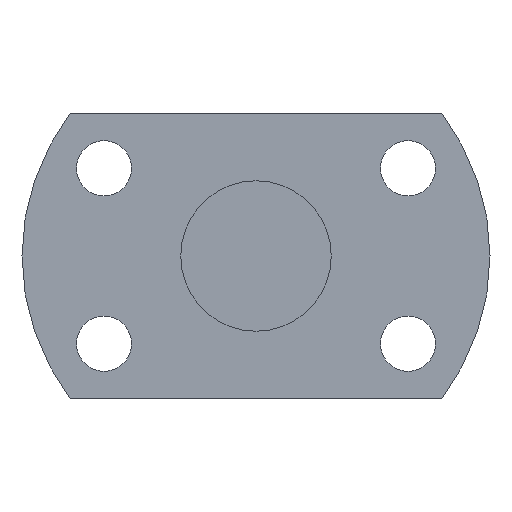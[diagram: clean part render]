
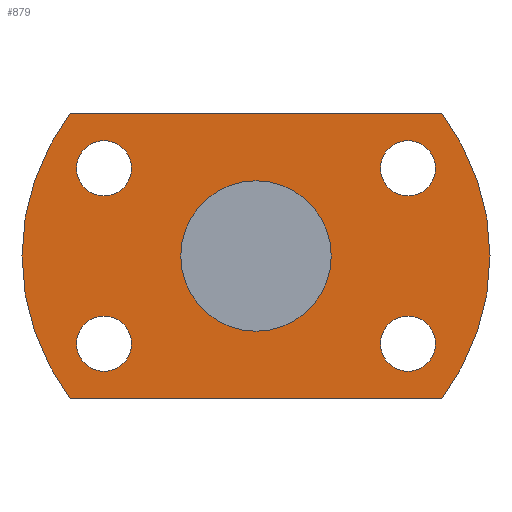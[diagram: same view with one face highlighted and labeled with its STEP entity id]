
A CAD part, left-side view. The second image highlights one B-rep face of the part: STEP entity #879.
In plain terms, the highlighted planar face has unit normal (-1, 0, 0).
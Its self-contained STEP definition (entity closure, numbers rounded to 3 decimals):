
#230=CARTESIAN_POINT('',(130.0,18.187,-7.2));
#231=VERTEX_POINT('',#230);
#232=CARTESIAN_POINT('',(130.0,18.187,-10.5));
#233=DIRECTION('',(1.0,0.0,0.0));
#234=DIRECTION('',(0.0,0.0,1.0));
#235=AXIS2_PLACEMENT_3D('',#232,#233,#234);
#236=CIRCLE('',#235,3.3);
#237=EDGE_CURVE('',#231,#231,#236,.T.);
#279=CARTESIAN_POINT('',(130.0,-18.187,13.8));
#280=VERTEX_POINT('',#279);
#281=CARTESIAN_POINT('',(130.0,-18.187,10.5));
#282=DIRECTION('',(1.0,0.0,0.0));
#283=DIRECTION('',(0.0,0.0,1.0));
#284=AXIS2_PLACEMENT_3D('',#281,#282,#283);
#285=CIRCLE('',#284,3.3);
#286=EDGE_CURVE('',#280,#280,#285,.T.);
#328=CARTESIAN_POINT('',(130.0,-18.187,-7.2));
#329=VERTEX_POINT('',#328);
#330=CARTESIAN_POINT('',(130.0,-18.187,-10.5));
#331=DIRECTION('',(1.0,0.0,0.0));
#332=DIRECTION('',(0.0,0.0,1.0));
#333=AXIS2_PLACEMENT_3D('',#330,#331,#332);
#334=CIRCLE('',#333,3.3);
#335=EDGE_CURVE('',#329,#329,#334,.T.);
#377=CARTESIAN_POINT('',(130.0,18.187,13.8));
#378=VERTEX_POINT('',#377);
#379=CARTESIAN_POINT('',(130.0,18.187,10.5));
#380=DIRECTION('',(1.0,0.0,0.0));
#381=DIRECTION('',(0.0,0.0,1.0));
#382=AXIS2_PLACEMENT_3D('',#379,#380,#381);
#383=CIRCLE('',#382,3.3);
#384=EDGE_CURVE('',#378,#378,#383,.T.);
#685=CARTESIAN_POINT('',(130.0,-22.249,-17.0));
#686=VERTEX_POINT('',#685);
#693=CARTESIAN_POINT('',(130.0,22.249,-17.0));
#694=VERTEX_POINT('',#693);
#695=CARTESIAN_POINT('',(130.0,22.249,-17.0));
#696=DIRECTION('',(0.0,-1.0,0.0));
#697=VECTOR('',#696,44.497);
#698=LINE('',#695,#697);
#699=EDGE_CURVE('',#694,#686,#698,.T.);
#716=CARTESIAN_POINT('',(130.0,-22.249,17.0));
#717=VERTEX_POINT('',#716);
#724=CARTESIAN_POINT('',(130.0,0.0,0.));
#725=DIRECTION('',(-1.0,0.0,0.0));
#726=DIRECTION('',(0.0,0.0,1.0));
#727=AXIS2_PLACEMENT_3D('',#724,#725,#726);
#728=CIRCLE('',#727,28.);
#729=EDGE_CURVE('',#686,#717,#728,.T.);
#741=CARTESIAN_POINT('',(130.0,22.249,17.0));
#742=VERTEX_POINT('',#741);
#749=CARTESIAN_POINT('',(130.0,-22.249,17.0));
#750=DIRECTION('',(0.0,1.0,0.0));
#751=VECTOR('',#750,44.497);
#752=LINE('',#749,#751);
#753=EDGE_CURVE('',#717,#742,#752,.T.);
#766=CARTESIAN_POINT('',(130.0,0.0,0.));
#767=DIRECTION('',(-1.0,0.0,0.0));
#768=DIRECTION('',(0.0,0.0,1.0));
#769=AXIS2_PLACEMENT_3D('',#766,#767,#768);
#770=CIRCLE('',#769,28.);
#771=EDGE_CURVE('',#742,#694,#770,.T.);
#845=CARTESIAN_POINT('',(130.0,0.0,12.5));
#846=DIRECTION('',(-1.0,0.0,0.0));
#847=DIRECTION('',(0.0,0.0,1.0));
#848=AXIS2_PLACEMENT_3D('',#845,#846,#847);
#849=PLANE('',#848);
#850=ORIENTED_EDGE('',*,*,#771,.T.);
#851=ORIENTED_EDGE('',*,*,#699,.T.);
#852=ORIENTED_EDGE('',*,*,#729,.T.);
#853=ORIENTED_EDGE('',*,*,#753,.T.);
#854=EDGE_LOOP('',(#850,#851,#852,#853));
#855=FACE_OUTER_BOUND('',#854,.T.);
#856=ORIENTED_EDGE('',*,*,#237,.T.);
#857=EDGE_LOOP('',(#856));
#858=FACE_BOUND('',#857,.T.);
#859=ORIENTED_EDGE('',*,*,#286,.T.);
#860=EDGE_LOOP('',(#859));
#861=FACE_BOUND('',#860,.T.);
#862=ORIENTED_EDGE('',*,*,#335,.T.);
#863=EDGE_LOOP('',(#862));
#864=FACE_BOUND('',#863,.T.);
#865=ORIENTED_EDGE('',*,*,#384,.T.);
#866=EDGE_LOOP('',(#865));
#867=FACE_BOUND('',#866,.T.);
#868=CARTESIAN_POINT('',(130.0,0.0,9.));
#869=VERTEX_POINT('',#868);
#870=CARTESIAN_POINT('',(130.0,0.0,0.));
#871=DIRECTION('',(-1.0,0.0,0.0));
#872=DIRECTION('',(0.0,0.0,1.0));
#873=AXIS2_PLACEMENT_3D('',#870,#871,#872);
#874=CIRCLE('',#873,9.);
#875=EDGE_CURVE('',#869,#869,#874,.T.);
#876=ORIENTED_EDGE('',*,*,#875,.F.);
#877=EDGE_LOOP('',(#876));
#878=FACE_BOUND('',#877,.T.);
#879=ADVANCED_FACE('',(#855,#858,#861,#864,#867,#878),#849,.T.);
